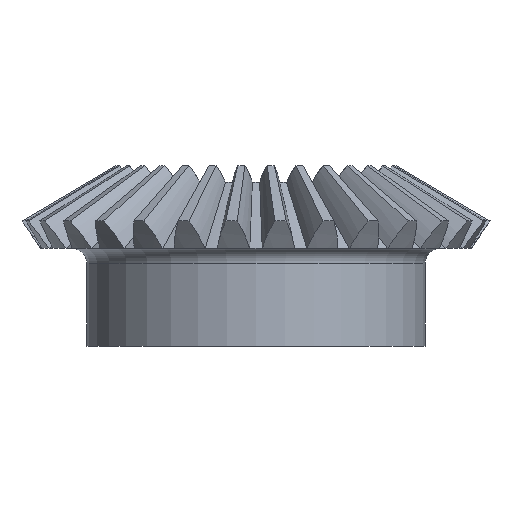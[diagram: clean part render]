
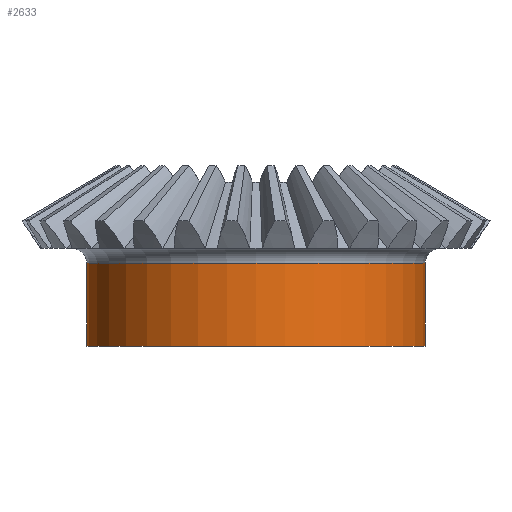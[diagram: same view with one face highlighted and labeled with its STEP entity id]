
A CAD part, front view. The second image highlights one B-rep face of the part: STEP entity #2633.
In plain terms, the highlighted cylindrical face has radius 22.5 mm (diameter 45 mm), a full revolution.
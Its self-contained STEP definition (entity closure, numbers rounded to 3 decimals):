
#450=LINE('',#3826,#461);
#461=VECTOR('',#3179,22.5);
#472=CYLINDRICAL_SURFACE('',#2850,22.5);
#475=FACE_OUTER_BOUND('',#666,.T.);
#666=EDGE_LOOP('',(#1749,#1750,#1751,#1752));
#859=CIRCLE('',#2847,22.5);
#862=CIRCLE('',#2851,22.5);
#1047=VERTEX_POINT('',#3818);
#1049=VERTEX_POINT('',#3824);
#1302=EDGE_CURVE('',#1047,#1047,#859,.T.);
#1305=EDGE_CURVE('',#1049,#1049,#862,.T.);
#1306=EDGE_CURVE('',#1049,#1047,#450,.T.);
#1749=ORIENTED_EDGE('',*,*,#1305,.T.);
#1750=ORIENTED_EDGE('',*,*,#1306,.T.);
#1751=ORIENTED_EDGE('',*,*,#1302,.F.);
#1752=ORIENTED_EDGE('',*,*,#1306,.F.);
#2633=ADVANCED_FACE('',(#475),#472,.T.);
#2847=AXIS2_PLACEMENT_3D('',#3819,#3169,#3170);
#2850=AXIS2_PLACEMENT_3D('',#3823,#3175,#3176);
#2851=AXIS2_PLACEMENT_3D('',#3825,#3177,#3178);
#3169=DIRECTION('center_axis',(0.,0.,1.));
#3170=DIRECTION('ref_axis',(1.,0.,0.));
#3175=DIRECTION('center_axis',(0.,0.,-1.));
#3176=DIRECTION('ref_axis',(1.,0.,0.));
#3177=DIRECTION('center_axis',(0.,0.,1.));
#3178=DIRECTION('ref_axis',(1.,0.,0.));
#3179=DIRECTION('',(0.,0.,1.));
#3818=CARTESIAN_POINT('',(-22.5,0.,-23.997));
#3819=CARTESIAN_POINT('Origin',(0.,0.,-23.997));
#3823=CARTESIAN_POINT('Origin',(0.,0.,-21.997));
#3824=CARTESIAN_POINT('',(-22.5,0.,-34.997));
#3825=CARTESIAN_POINT('Origin',(0.,0.,-34.997));
#3826=CARTESIAN_POINT('',(-22.5,0.,-21.997));
